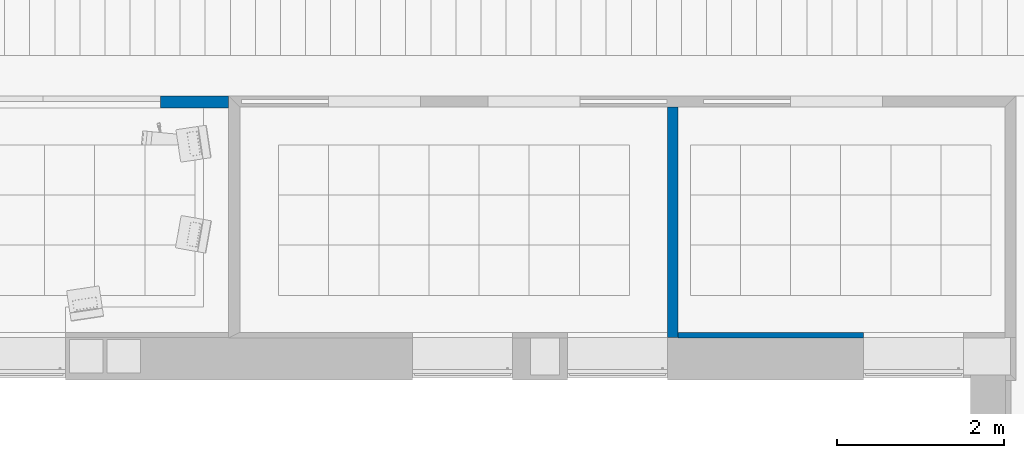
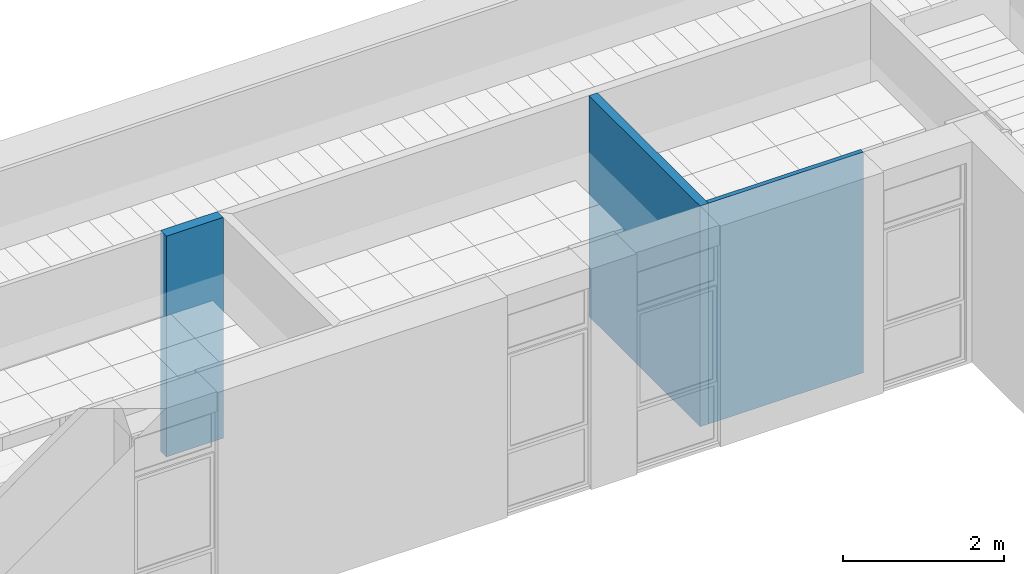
# One storey, part 40 of 68: 3 walls.
"""IFC2X3 building model written with IfcOpenShell, lengths in millimetres."""

from ifc_helpers import new_model, entity, si_unit, converted_unit, derived_unit, money_unit, direction, frame, origin_with_axes, place, context, subcontext, project, spatial, polyline, outline, extrude, material, layer, layer_set, layer_usage, type_object, element, save


model = new_model("IFC2X3")

# Units and contexts
model_context = context("Model", 3, precision=0.01, world=origin_with_axes(), true_north=direction((0.0, 1.0)))
body_context = subcontext(model_context, "Body", "Model", "MODEL_VIEW")
ifc_project = project(units=[si_unit("LENGTHUNIT", "METRE", prefix="MILLI"), si_unit("AREAUNIT", "SQUARE_METRE"), si_unit("VOLUMEUNIT", "CUBIC_METRE"), converted_unit("PLANEANGLEUNIT", "DEGREE", entity("IfcPlaneAngleMeasure", 0.0174532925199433), si_unit("PLANEANGLEUNIT", "RADIAN"), dimensions=[0, 0, 0, 0, 0, 0, 0]), money_unit("USD"), converted_unit("TIMEUNIT", "Year", entity("IfcTimeMeasure", 31557600.0), si_unit("TIMEUNIT", "SECOND"), dimensions=[0, 0, 1, 0, 0, 0, 0]), si_unit("MASSUNIT", "GRAM", prefix="KILO"), si_unit("THERMODYNAMICTEMPERATUREUNIT", "DEGREE_CELSIUS"), si_unit("LUMINOUSINTENSITYUNIT", "LUMEN"), si_unit("ENERGYUNIT", "JOULE", prefix="MEGA"), derived_unit("THERMALCONDUCTANCEUNIT", [(si_unit("POWERUNIT", "WATT"), 1), (si_unit("LENGTHUNIT", "METRE"), -1), (si_unit("THERMODYNAMICTEMPERATUREUNIT", "KELVIN"), -1)]), derived_unit("SPECIFICHEATCAPACITYUNIT", [(si_unit("ENERGYUNIT", "JOULE"), 1), (si_unit("MASSUNIT", "GRAM", prefix="KILO"), -1), (si_unit("THERMODYNAMICTEMPERATUREUNIT", "KELVIN"), -1)]), derived_unit("MASSDENSITYUNIT", [(si_unit("MASSUNIT", "GRAM", prefix="KILO"), 1), (si_unit("VOLUMEUNIT", "CUBIC_METRE"), -1)])], contexts=[model_context])

# Site, building, storey
site_placement = place(None, origin_with_axes())
site = spatial("IfcSite", under=ifc_project, at=site_placement, Name="Sitio", CompositionType="ELEMENT")
building_placement = place(site_placement, origin_with_axes())
building = spatial("IfcBuilding", under=site, at=building_placement, Name="Construcción", CompositionType="ELEMENT")
storey_placement = place(building_placement, origin_with_axes())
storey = spatial("IfcBuildingStorey", under=building, at=storey_placement, Name="PLANTA 1ª", CompositionType="ELEMENT", Elevation=0.0)

# Walls
ifc_material_1 = material(Name="Panel de Yeso Laminado")
ifc_layer_1 = layer(ifc_material_1, 13.0, ventilated="UNKNOWN")
ifc_layer_2 = layer(ifc_material_1, 13.0, ventilated="UNKNOWN")
ifc_material_2 = material(Name="ARQ_AI033_Aillament_Llana_De_Roca")
ifc_layer_3 = layer(ifc_material_2, 70.0, ventilated="UNKNOWN")
ifc_layer_4 = layer(ifc_material_1, 13.0, ventilated="UNKNOWN")
ifc_layer_5 = layer(ifc_material_1, 13.0, ventilated="UNKNOWN")
ifc_layer_set_1 = layer_set([ifc_layer_1, ifc_layer_2, ifc_layer_3, ifc_layer_4, ifc_layer_5], Name="Pladur 70 / 2N+2N")
ifc_layer_usage_1 = layer_usage(ifc_layer_set_1, "AXIS2", "POSITIVE", 0.0)
wall_type_1 = type_object("IfcWallType", Name="Pladur 70 / 2N+2N 122", PredefinedType="NOTDEFINED")
wall_1_placement = place(storey_placement, frame((-5604.95423099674, -1193.975823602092, 0.0), z_axis=(0.0, 0.0, 1.0), x_axis=(0.0, 1.0, 0.0)))
element("IfcWallStandardCase", 1, at=wall_1_placement, inside=storey, type_object=wall_type_1, material=ifc_layer_usage_1, Name="MS-213", context=body_context, shape_type="SweptSolid", body=[
    extrude(outline(polyline([(-1.083841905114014e-07, 0.0), (2760.828879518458, 0.0), (2760.828879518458, 121.9999999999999), (-1.083841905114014e-07, 121.9999999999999), (-1.083841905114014e-07, 0.0)])), origin_with_axes(), (0.0, 0.0, 1.0), 3350.0),
])
ifc_material_3 = material(Name="ARQ_FU093_Panellat_HPL")
ifc_layer_6 = layer(ifc_material_3, 6.0, ventilated="UNKNOWN")
ifc_material_4 = material(Name="ARQ_EN271_Camara_Aire")
ifc_layer_7 = layer(ifc_material_4, 6.0, ventilated="UNKNOWN")
ifc_layer_8 = layer(ifc_material_1, 13.0, ventilated="UNKNOWN")
ifc_layer_9 = layer(ifc_material_1, 13.0, ventilated="UNKNOWN")
ifc_layer_10 = layer(ifc_material_2, 70.0, ventilated="UNKNOWN")
ifc_layer_11 = layer(ifc_material_1, 13.0, ventilated="UNKNOWN")
ifc_layer_12 = layer(ifc_material_1, 13.0, ventilated="UNKNOWN")
ifc_layer_13 = layer(ifc_material_4, 6.0, ventilated="UNKNOWN")
ifc_layer_14 = layer(ifc_material_3, 6.0, ventilated="UNKNOWN")
ifc_layer_set_2 = layer_set([ifc_layer_6, ifc_layer_7, ifc_layer_8, ifc_layer_9, ifc_layer_10, ifc_layer_11, ifc_layer_12, ifc_layer_13, ifc_layer_14], Name="CR Pladur 70 HPL 2 cares")
ifc_layer_usage_2 = layer_usage(ifc_layer_set_2, "AXIS2", "NEGATIVE", 0.0)
wall_type_2 = type_object("IfcWallType", Name="CR Pladur 70 HPL 2 cares 146", PredefinedType="NOTDEFINED")
wall_2_placement = place(storey_placement, frame((-10845.8481802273, 1554.853055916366, 0.0), z_axis=(0.0, 0.0, 1.0), x_axis=(-1.0, 0.0, 0.0)))
element("IfcWallStandardCase", 2, at=wall_2_placement, inside=storey, type_object=wall_type_2, material=ifc_layer_usage_2, Name="MS-214", context=body_context, shape_type="SweptSolid", body=[
    extrude(outline(polyline([(134.0000000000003, -145.9999999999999), (949.9999999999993, -145.9999999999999), (949.9999999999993, 0.0), (134.0000000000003, 0.0), (134.0000000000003, -145.9999999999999)])), origin_with_axes(), (0.0, 0.0, 1.0), 3350.0),
])
ifc_layer_15 = layer(ifc_material_1, 13.0, ventilated="UNKNOWN")
ifc_layer_16 = layer(ifc_material_1, 13.0, ventilated="UNKNOWN")
ifc_layer_17 = layer(ifc_material_2, 40.0, ventilated="UNKNOWN")
ifc_layer_set_3 = layer_set([ifc_layer_15, ifc_layer_16, ifc_layer_17], Name="Pladur Tras 40 / 2N")
ifc_layer_usage_3 = layer_usage(ifc_layer_set_3, "AXIS2", "NEGATIVE", 0.0)
wall_type_3 = type_object("IfcWallType", Name="Pladur Tras 40 / 2N 66", PredefinedType="NOTDEFINED")
wall_3_placement = place(storey_placement, frame((-5604.95423099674, -1128.975823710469, 0.0), z_axis=(0.0, 0.0, 1.0), x_axis=(1.0, 0.0, 0.0)))
element("IfcWallStandardCase", 3, at=wall_3_placement, inside=storey, type_object=wall_type_3, material=ifc_layer_usage_3, Name="MS-241", context=body_context, shape_type="SweptSolid", body=[
    extrude(outline(polyline([(0.0, -66.00000000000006), (2221.522875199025, -66.00000000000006), (2221.522875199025, 0.0), (0.0, 0.0), (0.0, -66.00000000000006)])), origin_with_axes(), (0.0, 0.0, 1.0), 3350.0),
])

save(model, "model.ifc")
